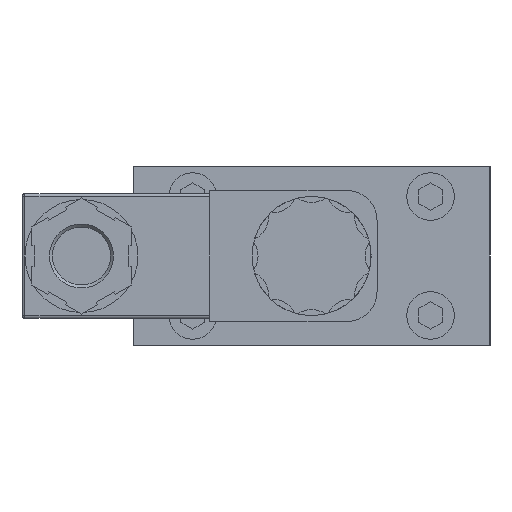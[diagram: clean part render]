
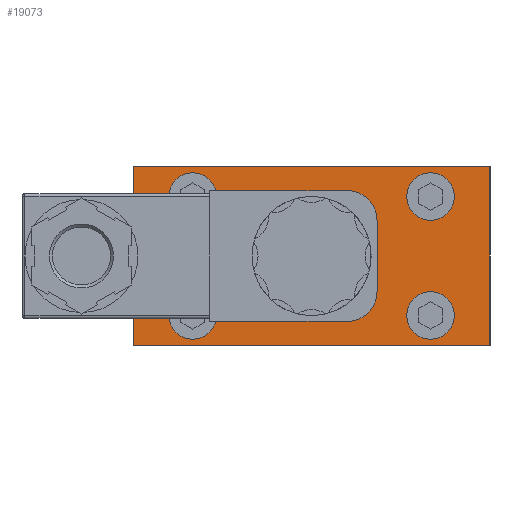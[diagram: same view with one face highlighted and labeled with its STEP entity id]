
A CAD part, left-side view. The second image highlights one B-rep face of the part: STEP entity #19073.
In plain terms, the highlighted planar face has unit normal (-1, 0, 0).
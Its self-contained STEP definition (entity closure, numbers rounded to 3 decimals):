
#831=CIRCLE('',#20046,8.);
#842=CIRCLE('',#20108,4.);
#843=CIRCLE('',#20110,4.);
#844=CIRCLE('',#20116,4.);
#845=CIRCLE('',#20118,4.);
#4130=ORIENTED_EDGE('',*,*,#6042,.F.);
#4131=ORIENTED_EDGE('',*,*,#6173,.T.);
#4132=ORIENTED_EDGE('',*,*,#6172,.T.);
#4133=ORIENTED_EDGE('',*,*,#6171,.T.);
#4134=ORIENTED_EDGE('',*,*,#6169,.T.);
#4135=ORIENTED_EDGE('',*,*,#6167,.T.);
#4136=ORIENTED_EDGE('',*,*,#6165,.T.);
#4137=ORIENTED_EDGE('',*,*,#6163,.T.);
#4138=ORIENTED_EDGE('',*,*,#6162,.T.);
#6042=EDGE_CURVE('',#7419,#7419,#831,.T.);
#6162=EDGE_CURVE('',#7504,#7504,#842,.T.);
#6163=EDGE_CURVE('',#7505,#7505,#843,.T.);
#6165=EDGE_CURVE('',#7507,#7506,#8761,.T.);
#6167=EDGE_CURVE('',#7508,#7507,#8763,.T.);
#6169=EDGE_CURVE('',#7509,#7508,#8765,.T.);
#6171=EDGE_CURVE('',#7506,#7509,#8767,.T.);
#6172=EDGE_CURVE('',#7510,#7510,#844,.T.);
#6173=EDGE_CURVE('',#7511,#7511,#845,.T.);
#7419=VERTEX_POINT('',#28593);
#7504=VERTEX_POINT('',#29095);
#7505=VERTEX_POINT('',#29098);
#7506=VERTEX_POINT('',#29101);
#7507=VERTEX_POINT('',#29103);
#7508=VERTEX_POINT('',#29107);
#7509=VERTEX_POINT('',#29111);
#7510=VERTEX_POINT('',#29117);
#7511=VERTEX_POINT('',#29120);
#8761=LINE('',#29102,#9999);
#8763=LINE('',#29106,#10001);
#8765=LINE('',#29110,#10003);
#8767=LINE('',#29114,#10005);
#9999=VECTOR('',#23220,1000.);
#10001=VECTOR('',#23224,1000.);
#10003=VECTOR('',#23228,1000.);
#10005=VECTOR('',#23232,1000.);
#11070=EDGE_LOOP('',(#4130));
#11071=EDGE_LOOP('',(#4131));
#11072=EDGE_LOOP('',(#4132));
#11073=EDGE_LOOP('',(#4133,#4134,#4135,#4136));
#11074=EDGE_LOOP('',(#4137));
#11075=EDGE_LOOP('',(#4138));
#12144=FACE_BOUND('',#11070,.T.);
#12145=FACE_BOUND('',#11071,.T.);
#12146=FACE_BOUND('',#11072,.T.);
#12147=FACE_BOUND('',#11073,.T.);
#12148=FACE_BOUND('',#11074,.T.);
#12149=FACE_BOUND('',#11075,.T.);
#12712=PLANE('',#20119);
#19073=ADVANCED_FACE('',(#12144,#12145,#12146,#12147,#12148,#12149),#12712,
 .T.);
#20046=AXIS2_PLACEMENT_3D('',#28592,#22986,#22987);
#20108=AXIS2_PLACEMENT_3D('',#29094,#23211,#23212);
#20110=AXIS2_PLACEMENT_3D('',#29097,#23215,#23216);
#20116=AXIS2_PLACEMENT_3D('',#29116,#23235,#23236);
#20118=AXIS2_PLACEMENT_3D('',#29119,#23239,#23240);
#20119=AXIS2_PLACEMENT_3D('',#29121,#23241,#23242);
#22986=DIRECTION('',(-1.,0.,0.));
#22987=DIRECTION('',(0.,-1.,0.));
#23211=DIRECTION('',(1.,0.,0.));
#23212=DIRECTION('',(0.,1.,0.));
#23215=DIRECTION('',(1.,0.,0.));
#23216=DIRECTION('',(0.,1.,0.));
#23220=DIRECTION('',(0.,1.,0.));
#23224=DIRECTION('',(0.,0.,1.));
#23228=DIRECTION('',(0.,-1.,0.));
#23232=DIRECTION('',(0.,0.,-1.));
#23235=DIRECTION('',(1.,0.,0.));
#23236=DIRECTION('',(0.,1.,0.));
#23239=DIRECTION('',(1.,0.,0.));
#23240=DIRECTION('',(0.,1.,0.));
#23241=DIRECTION('',(-1.,0.,0.));
#23242=DIRECTION('',(0.,-1.,0.));
#28592=CARTESIAN_POINT('',(-130.,0.,0.));
#28593=CARTESIAN_POINT('',(-130.,-8.,0.));
#29094=CARTESIAN_POINT('',(-130.,20.,10.));
#29095=CARTESIAN_POINT('',(-130.,24.,10.));
#29097=CARTESIAN_POINT('',(-130.,-20.,-10.));
#29098=CARTESIAN_POINT('',(-130.,-16.,-10.));
#29101=CARTESIAN_POINT('',(-130.,30.,15.));
#29102=CARTESIAN_POINT('',(-130.,-18.,15.));
#29103=CARTESIAN_POINT('',(-130.,-30.,15.));
#29106=CARTESIAN_POINT('',(-130.,-30.,-11.));
#29107=CARTESIAN_POINT('',(-130.,-30.,-15.));
#29110=CARTESIAN_POINT('',(-130.,18.,-15.));
#29111=CARTESIAN_POINT('',(-130.,30.,-15.));
#29114=CARTESIAN_POINT('',(-130.,30.,11.));
#29116=CARTESIAN_POINT('',(-130.,-20.,10.));
#29117=CARTESIAN_POINT('',(-130.,-16.,10.));
#29119=CARTESIAN_POINT('',(-130.,20.,-10.));
#29120=CARTESIAN_POINT('',(-130.,24.,-10.));
#29121=CARTESIAN_POINT('',(-130.,18.,-11.));
